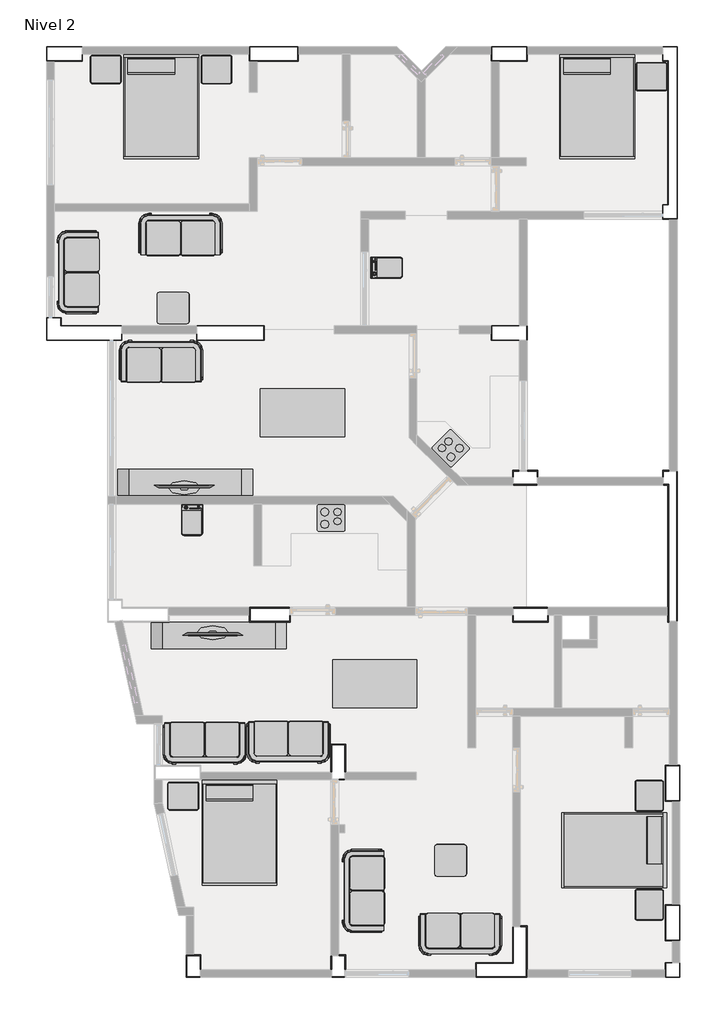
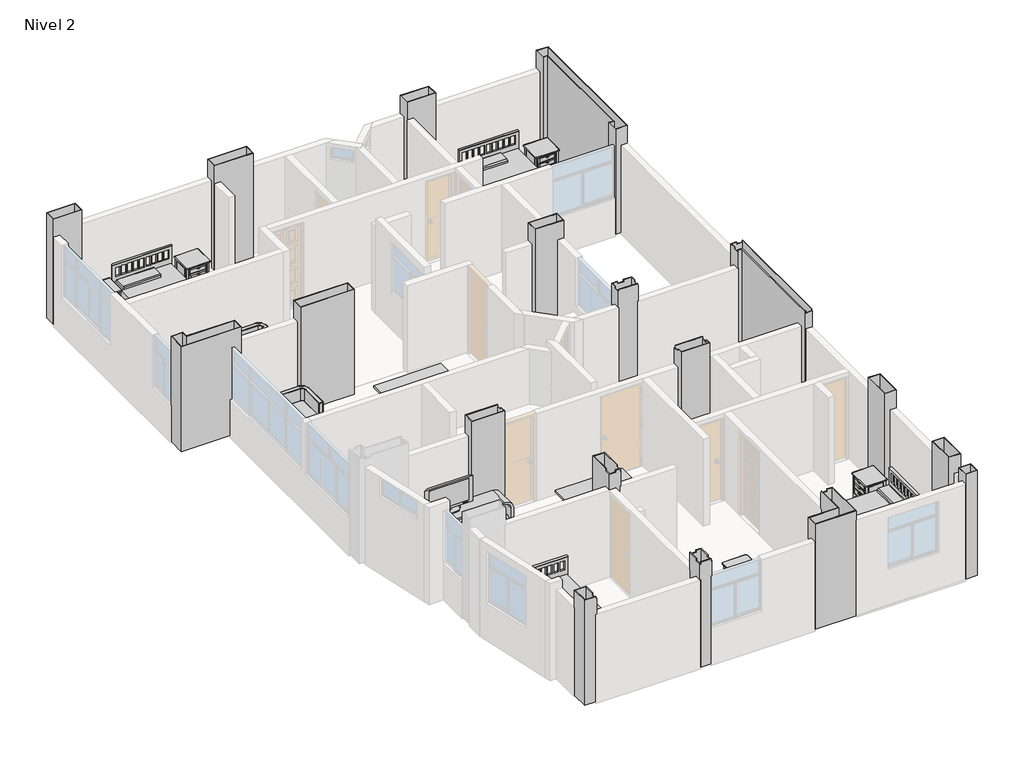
# One storey, part 3 of 3: 23 furniture elements, 18 columns, 6 proxies.
"""IFC4 building model written with IfcOpenShell, lengths in millimetres."""

from ifc_helpers import new_model, si_unit, origin, place, context, project, spatial, faceted_brep, transform, mapped, element, save
from components import specialty_equipment_2e13d9fc, proxy_400mm_x_600mm_x_850mm_a42225af, proxy_42_inch_plasma_tv_11107_42_inch_plasma_tv_11107_394337c5, furniture_18450899, furniture_bfac4297, furniture_1422_x_1981_mm_doble_c85bece8, furniture_160_x_80_cm_madera_claro_7cd3064c, furniture_600mm_x_600mm_a769e95e, bed_side_table_9129_bed_side_table_9129_b31ec6e2, bed_side_table_9129_bed_side_table_9129_c77a05bd, tv_room_furn_4056_tv_room_furn_4056_870fe8c4

model = new_model("IFC4")

# Units and contexts
model_context = context("Model", 3, world=origin())
ifc_project = project(units=[si_unit("LENGTHUNIT", "METRE", prefix="MILLI")], contexts=[model_context])

# Site, building, storey
site = spatial("IfcSite", under=ifc_project)
building = spatial("IfcBuilding", under=site)
storey = spatial("IfcBuildingStorey", under=building, Name="Nivel 2", Elevation=2800.0)

# Proxies
placement = place(None, origin())
specialty_equipment_shape = specialty_equipment_2e13d9fc(model_context)
element("IfcBuildingElementProxy", 1, Name="Electric Hob : Electric Hob", ObjectType="Electric Hob : Electric Hob", at=placement, inside=storey, context=model_context, shape_type="MappedRepresentation", body=[
    mapped(specialty_equipment_shape, transform((5026.7577455, 10021.1807466, 3600.0), x_axis=(-0.7121213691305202, 0.7020563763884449, 0.0), y_axis=(-0.7020563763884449, -0.7121213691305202, 0.0), z_axis=(0.0, 0.0, 1.0))),
])
element("IfcBuildingElementProxy", 2, Name="Electric Hob : Electric Hob", ObjectType="Electric Hob : Electric Hob", at=placement, inside=storey, context=model_context, shape_type="MappedRepresentation", body=[
    mapped(specialty_equipment_shape, transform((2719.0, 8710.0, 3600.0), x_axis=(1.0, 0.0, 0.0), y_axis=(0.0, 1.0, 0.0), z_axis=(0.0, 0.0, 1.0))),
])
proxy_400mm_x_600mm_x_850mm_shape = proxy_400mm_x_600mm_x_850mm_a42225af(model_context)
element("IfcBuildingElementProxy", 3, Name="Lave linge - Chargement par le dessus : 400mm x 600mm x 850mm", ObjectType="Lave linge - Chargement par le dessus : 400mm x 600mm x 850mm", at=placement, inside=storey, context=model_context, shape_type="MappedRepresentation", body=[
    mapped(proxy_400mm_x_600mm_x_850mm_shape, transform((3933.8207986, 13503.4949484, 2800.0), x_axis=(0.0, 1.0, 0.0), y_axis=(-1.0, 0.0, 0.0), z_axis=(0.0, 0.0, 1.0))),
])
element("IfcBuildingElementProxy", 4, Name="Lave linge - Chargement par le dessus : 400mm x 600mm x 850mm", ObjectType="Lave linge - Chargement par le dessus : 400mm x 600mm x 850mm", at=placement, inside=storey, context=model_context, shape_type="MappedRepresentation", body=[
    mapped(proxy_400mm_x_600mm_x_850mm_shape, transform((138.4955292, 8536.1797822, 2800.0), x_axis=(1.0, 0.0, 0.0), y_axis=(0.0, 1.0, 0.0), z_axis=(0.0, 0.0, 1.0))),
])
proxy_42_inch_plasma_tv_11107_42_inch_plasma_tv_11107_shape = proxy_42_inch_plasma_tv_11107_42_inch_plasma_tv_11107_394337c5(model_context)
element("IfcBuildingElementProxy", 5, Name="42_inch_plasma_tv_11107 : 42_inch_plasma_tv_11107", ObjectType="42_inch_plasma_tv_11107 : 42_inch_plasma_tv_11107", at=placement, inside=storey, context=model_context, shape_type="MappedRepresentation", body=[
    mapped(proxy_42_inch_plasma_tv_11107_42_inch_plasma_tv_11107_shape, transform((-49.9994192, 9335.0, 3650.0), x_axis=(-1.0, 0.0, 0.0), y_axis=(0.0, -1.0, 0.0), z_axis=(0.0, 0.0, 1.0))),
])
element("IfcBuildingElementProxy", 6, Name="42_inch_plasma_tv_11107 : 42_inch_plasma_tv_11107", ObjectType="42_inch_plasma_tv_11107 : 42_inch_plasma_tv_11107", at=placement, inside=storey, context=model_context, shape_type="MappedRepresentation", body=[
    mapped(proxy_42_inch_plasma_tv_11107_42_inch_plasma_tv_11107_shape, transform((490.0005808, 6480.0, 3650.0), x_axis=(1.0, 0.0, 0.0), y_axis=(0.0, 1.0, 0.0), z_axis=(0.0, 0.0, 1.0))),
])

# Columns
element("IfcColumn", 7, ObjectType="Columna U Arquitectonica : Columna U Arquitectonica", at=placement, inside=storey, context=model_context, shape_type="Brep", body=[
    faceted_brep([(9035.0, 14665.0, 2800.0), (9135.0, 14665.0, 2800.0), (9135.0, 17385.0, 2800.0), (9035.0, 17385.0, 2800.0), (9035.0, 17665.0, 2800.0), (9315.0, 17665.0, 2800.0), (9315.0, 14385.0, 2800.0), (9035.0, 14385.0, 2800.0), (9050.0, 14650.0, 2800.0), (9050.0, 14400.0, 2800.0), (9300.0, 14400.0, 2800.0), (9300.0, 17650.0, 2800.0), (9050.0, 17650.0, 2800.0), (9050.0, 17400.0, 2800.0), (9150.0, 17400.0, 2800.0), (9150.0, 14650.0, 2800.0), (9150.0, 14650.0, 5450.0), (9050.0, 14650.0, 5450.0), (9150.0, 17400.0, 5450.0), (9050.0, 17400.0, 5450.0), (9050.0, 17650.0, 5450.0), (9300.0, 17650.0, 5450.0), (9300.0, 14400.0, 5450.0), (9050.0, 14400.0, 5450.0), (9035.0, 14665.0, 5450.0), (9035.0, 14385.0, 5450.0), (9315.0, 14385.0, 5450.0), (9315.0, 17665.0, 5450.0), (9035.0, 17665.0, 5450.0), (9035.0, 17385.0, 5450.0), (9135.0, 17385.0, 5450.0), (9135.0, 14665.0, 5450.0), (9035.0, 17665.0, 5400.0), (9035.0, 17665.0, 5000.0), (9315.0, 14385.0, 5400.0), (9315.0, 14385.0, 5000.0), (9035.0, 14385.0, 5400.0), (9035.0, 14385.0, 3700.0)], [[[0, 1, 2, 3, 4, 5, 6, 7], [8, 9, 10, 11, 12, 13, 14, 15]], [[16, 17, 8, 15]], [[18, 16, 15, 14]], [[19, 18, 14, 13]], [[20, 19, 13, 12]], [[21, 20, 12, 11]], [[22, 21, 11, 10]], [[23, 22, 10, 9]], [[17, 23, 9, 8]], [[24, 25, 26, 27, 28, 29, 30, 31], [17, 16, 18, 19, 20, 21, 22, 23]], [[24, 31, 1, 0]], [[31, 30, 2, 1]], [[30, 29, 3, 2]], [[29, 28, 32, 33, 4, 3]], [[28, 27, 5, 4, 33, 32]], [[27, 26, 34, 35, 6, 5]], [[26, 25, 36, 37, 7, 6, 35, 34]], [[25, 24, 0, 7, 37, 36]]]),
])
element("IfcColumn", 8, ObjectType="Columna L Arquitectonica : ACO_L 25x285x25x15 cm", at=placement, inside=storey, context=model_context, shape_type="Brep", body=[
    faceted_brep([(9165.0, 9600.0, 2800.0), (9050.0, 9600.0, 2800.0), (9050.0, 9485.0, 2800.0), (9035.0, 9485.0, 2800.0), (9035.0, 9615.0, 2800.0), (9165.0, 9615.0, 2800.0), (9150.0, 6750.0, 2800.0), (9150.0, 6750.0, 5450.0), (9165.0, 6750.0, 5450.0), (9165.0, 6750.0, 5400.0), (9300.0, 6750.0, 5400.0), (9300.0, 6750.0, 5000.0), (9165.0, 6750.0, 5000.0), (9165.0, 6750.0, 2800.0), (9300.0, 9600.0, 2800.0), (9300.0, 6750.0, 2800.0), (9300.0, 6750.0, 5450.0), (9300.0, 9600.0, 5450.0), (9300.0, 9600.0, 5400.0), (9300.0, 9600.0, 5000.0), (9050.0, 9600.0, 5450.0), (9165.0, 9600.0, 5000.0), (9165.0, 9600.0, 5400.0), (9165.0, 9600.0, 5450.0), (9050.0, 9485.0, 5450.0), (9050.0, 9485.0, 5400.0), (9050.0, 9350.0, 5400.0), (9050.0, 9350.0, 5000.0), (9050.0, 9485.0, 5000.0), (9150.0, 9350.0, 2800.0), (9050.0, 9350.0, 2800.0), (9050.0, 9350.0, 5450.0), (9150.0, 9350.0, 5450.0), (9135.0, 9335.0, 5450.0), (9135.0, 9335.0, 2800.0), (9135.0, 7015.0, 2800.0), (9135.0, 6865.0, 2800.0), (9135.0, 6735.0, 2800.0), (9135.0, 6735.0, 5450.0), (9135.0, 6865.0, 5450.0), (9135.0, 7015.0, 5450.0), (9050.0, 9335.0, 5450.0), (9050.0, 9335.0, 5400.0), (9035.0, 9335.0, 5400.0), (9035.0, 9335.0, 5000.0), (9050.0, 9335.0, 5000.0), (9050.0, 9335.0, 2800.0), (9035.0, 9615.0, 5450.0), (9035.0, 9485.0, 5000.0), (9035.0, 9485.0, 5400.0), (9035.0, 9485.0, 5450.0), (9165.0, 9615.0, 5450.0), (9165.0, 9615.0, 5400.0), (9315.0, 9615.0, 5400.0), (9315.0, 9615.0, 5000.0), (9165.0, 9615.0, 5000.0), (9315.0, 9600.0, 2800.0), (9315.0, 9600.0, 5000.0), (9315.0, 9600.0, 5400.0), (9315.0, 9600.0, 5450.0), (9315.0, 6750.0, 5450.0), (9315.0, 6750.0, 5400.0), (9315.0, 6735.0, 5400.0), (9315.0, 6735.0, 5000.0), (9315.0, 6750.0, 5000.0), (9315.0, 6750.0, 2800.0), (9165.0, 6735.0, 2800.0), (9165.0, 6735.0, 5000.0), (9165.0, 6735.0, 5400.0), (9165.0, 6735.0, 5450.0)], [[[0, 1, 2, 3, 4, 5]], [[6, 7, 8, 9, 10, 11, 12, 13]], [[14, 15, 11, 10, 16, 17, 18, 19]], [[20, 1, 0, 21, 19, 18, 22, 23]], [[1, 20, 24, 25, 26, 27, 28, 2]], [[29, 30, 27, 26, 31, 32]], [[6, 29, 32, 7]], [[33, 34, 35, 36, 37, 38, 39, 40]], [[34, 33, 41, 42, 43, 44, 45, 46]], [[47, 4, 3, 48, 44, 43, 49, 50]], [[4, 47, 51, 52, 53, 54, 55, 5]], [[56, 57, 54, 53, 58, 59, 60, 61, 62, 63, 64, 65]], [[38, 37, 66, 67, 63, 62, 68, 69]], [[17, 16, 60, 59]], [[12, 67, 66, 13]], [[11, 64, 63, 67, 12]], [[64, 11, 15, 65]], [[55, 21, 0, 5]], [[19, 57, 56, 14]], [[57, 19, 21, 55, 54]], [[15, 14, 56, 65]], [[28, 48, 3, 2]], [[45, 27, 30, 46]], [[27, 45, 44, 48, 28]], [[30, 29, 6, 13, 66, 37, 36, 35, 34, 46]], [[22, 52, 51, 23]], [[18, 58, 53, 52, 22]], [[58, 18, 17, 59]], [[68, 9, 8, 69]], [[61, 10, 9, 68, 62]], [[10, 61, 60, 16]], [[32, 31, 41, 33, 40, 39, 38, 69, 8, 7]], [[49, 25, 24, 50]], [[42, 26, 25, 49, 43]], [[26, 42, 41, 31]], [[20, 23, 51, 47, 50, 24]]]),
])
element("IfcColumn", 9, ObjectType="Columna L Arquitectonica : ACO_L 40x140x25 cm", at=placement, inside=storey, context=model_context, shape_type="Brep", body=[
    faceted_brep([(-2385.0, 12515.0, 2800.0), (-2385.0, 12365.0, 2800.0), (-1235.0, 12365.0, 2800.0), (-1235.0, 12085.0, 2800.0), (-2665.0, 12085.0, 2800.0), (-2665.0, 12515.0, 2800.0), (-2400.0, 12500.0, 2800.0), (-2650.0, 12500.0, 2800.0), (-2650.0, 12100.0, 2800.0), (-1250.0, 12100.0, 2800.0), (-1250.0, 12350.0, 2800.0), (-2400.0, 12350.0, 2800.0), (-2400.0, 12500.0, 5450.0), (-2650.0, 12500.0, 5450.0), (-2650.0, 12100.0, 5450.0), (-1250.0, 12100.0, 5450.0), (-1250.0, 12350.0, 5450.0), (-2400.0, 12350.0, 5450.0), (-2385.0, 12515.0, 5450.0), (-2385.0, 12365.0, 5450.0), (-1235.0, 12365.0, 5450.0), (-1235.0, 12365.0, 5400.0), (-1235.0, 12365.0, 5000.0), (-1235.0, 12085.0, 5450.0), (-2665.0, 12085.0, 5450.0), (-2665.0, 12515.0, 5450.0), (-2665.0, 12515.0, 5400.0), (-2665.0, 12515.0, 3700.0)], [[[0, 1, 2, 3, 4, 5], [6, 7, 8, 9, 10, 11]], [[12, 13, 7, 6]], [[13, 14, 8, 7]], [[14, 15, 9, 8]], [[15, 16, 10, 9]], [[16, 17, 11, 10]], [[17, 12, 6, 11]], [[18, 19, 1, 0]], [[19, 20, 21, 22, 2, 1]], [[20, 23, 3, 2, 22, 21]], [[23, 24, 4, 3]], [[24, 25, 26, 27, 5, 4]], [[25, 18, 0, 5, 27, 26]], [[18, 25, 24, 23, 20, 19], [12, 17, 16, 15, 14, 13]]]),
])
element("IfcColumn", 10, ObjectType="Columna L Arquitectonica : ACO_L 95x95x25 cm", at=placement, inside=storey, context=model_context, shape_type="Brep", body=[
    faceted_brep([(5500.0, 250.0, 2800.0), (5500.0, 0.0, 2800.0), (6450.0, 0.0, 2800.0), (6450.0, 950.0, 2800.0), (6335.0, 950.0, 2800.0), (6335.0, 965.0, 2800.0), (6465.0, 965.0, 2800.0), (6465.0, -15.0, 2800.0), (5485.0, -15.0, 2800.0), (5485.0, 265.0, 2800.0), (6185.0, 265.0, 2800.0), (6185.0, 950.0, 2800.0), (6200.0, 950.0, 2800.0), (6200.0, 250.0, 2800.0), (5500.0, 250.0, 5450.0), (5500.0, 0.0, 5450.0), (6450.0, 0.0, 5450.0), (6450.0, 950.0, 5450.0), (6335.0, 950.0, 5450.0), (6335.0, 950.0, 5400.0), (6200.0, 950.0, 5400.0), (6200.0, 950.0, 5000.0), (6335.0, 950.0, 5000.0), (6200.0, 950.0, 5450.0), (6200.0, 250.0, 5450.0), (5485.0, 265.0, 5450.0), (6185.0, 265.0, 5450.0), (6185.0, 950.0, 5450.0), (6185.0, 950.0, 5400.0), (6185.0, 965.0, 5400.0), (6185.0, 965.0, 5000.0), (6185.0, 950.0, 5000.0), (6465.0, 965.0, 5450.0), (6335.0, 965.0, 5000.0), (6335.0, 965.0, 5400.0), (6335.0, 965.0, 5450.0), (6465.0, -15.0, 5450.0), (6465.0, -15.0, 5400.0), (6465.0, -15.0, 5200.0), (5485.0, -15.0, 5450.0), (5485.0, -15.0, 5400.0), (5485.0, -15.0, 5000.0)], [[[0, 1, 2, 3, 4, 5, 6, 7, 8, 9, 10, 11, 12, 13]], [[1, 0, 14, 15]], [[2, 1, 15, 16]], [[3, 2, 16, 17]], [[3, 17, 18, 19, 20, 21, 22, 4]], [[13, 12, 21, 20, 23, 24]], [[0, 13, 24, 14]], [[10, 9, 25, 26]], [[10, 26, 27, 28, 29, 30, 31, 11]], [[32, 6, 5, 33, 30, 29, 34, 35]], [[7, 6, 32, 36, 37, 38]], [[8, 7, 38, 37, 36, 39, 40, 41]], [[9, 8, 41, 40, 39, 25]], [[15, 14, 24, 23, 27, 26, 25, 39, 36, 32, 35, 18, 17, 16]], [[22, 33, 5, 4]], [[21, 31, 30, 33, 22]], [[31, 21, 12, 11]], [[34, 19, 18, 35]], [[28, 20, 19, 34, 29]], [[20, 28, 27, 23]]]),
])
element("IfcColumn", 11, ObjectType="Columna Rectangular Arquitectonica : ACO_Rectangular 25x125 cm", at=placement, inside=storey, context=model_context, shape_type="Brep", body=[
    faceted_brep([(185.0, 12365.0, 2800.0), (1465.0, 12365.0, 2800.0), (1465.0, 12085.0, 2800.0), (185.0, 12085.0, 2800.0), (200.0, 12350.0, 2800.0), (200.0, 12100.0, 2800.0), (1450.0, 12100.0, 2800.0), (1450.0, 12350.0, 2800.0), (200.0, 12350.0, 5450.0), (200.0, 12100.0, 5450.0), (1450.0, 12100.0, 5450.0), (1450.0, 12350.0, 5450.0), (185.0, 12365.0, 5450.0), (1465.0, 12365.0, 5450.0), (185.0, 12365.0, 5000.0), (185.0, 12365.0, 5400.0), (1465.0, 12085.0, 5450.0), (185.0, 12085.0, 5450.0)], [[[0, 1, 2, 3], [4, 5, 6, 7]], [[8, 9, 5, 4]], [[9, 10, 6, 5]], [[10, 11, 7, 6]], [[11, 8, 4, 7]], [[12, 13, 1, 0, 14, 15]], [[13, 16, 2, 1]], [[16, 17, 3, 2]], [[17, 12, 15, 14, 0, 3]], [[12, 17, 16, 13], [8, 11, 10, 9]]]),
])
element("IfcColumn", 12, ObjectType="Columna Rectangular Arquitectonica : ACO_Rectangular 25x25 cm", at=placement, inside=storey, context=model_context, shape_type="Brep", body=[
    faceted_brep([(9085.0, -15.0, 2800.0), (9085.0, 265.0, 2800.0), (9365.0, 265.0, 2800.0), (9365.0, -15.0, 2800.0), (9100.0, 0.0, 2800.0), (9350.0, 0.0, 2800.0), (9350.0, 250.0, 2800.0), (9100.0, 250.0, 2800.0), (9100.0, 0.0, 5450.0), (9350.0, 0.0, 5450.0), (9350.0, 250.0, 5450.0), (9100.0, 250.0, 5450.0), (9085.0, -15.0, 5450.0), (9085.0, 265.0, 5450.0), (9085.0, -15.0, 5200.0), (9085.0, -15.0, 5400.0), (9365.0, 265.0, 5450.0), (9365.0, 265.0, 5400.0), (9365.0, 265.0, 5000.0), (9365.0, -15.0, 5450.0)], [[[0, 1, 2, 3], [4, 5, 6, 7]], [[8, 9, 5, 4]], [[9, 10, 6, 5]], [[10, 11, 7, 6]], [[11, 8, 4, 7]], [[12, 13, 1, 0, 14, 15]], [[13, 16, 17, 18, 2, 1]], [[16, 19, 3, 2, 18, 17]], [[19, 12, 15, 14, 0, 3]], [[12, 19, 16, 13], [8, 11, 10, 9]]]),
])
element("IfcColumn", 13, ObjectType="Columna Rectangular Arquitectonica : ACO_Rectangular 25x40 cm", at=placement, inside=storey, context=model_context, shape_type="Brep", body=[
    faceted_brep([(2735.0, 400.0, 2800.0), (2750.0, 400.0, 2800.0), (2750.0, 135.0, 2800.0), (2735.0, 135.0, 2800.0), (3000.0, 0.0, 2800.0), (2750.0, 0.0, 2800.0), (2750.0, 0.0, 5000.0), (2750.0, 0.0, 5400.0), (2750.0, 0.0, 5450.0), (3000.0, 0.0, 5450.0), (3000.0, 0.0, 5400.0), (3000.0, 0.0, 5000.0), (3000.0, 400.0, 5450.0), (3000.0, 400.0, 2800.0), (3000.0, 135.0, 2800.0), (3000.0, 135.0, 5000.0), (3000.0, 135.0, 5400.0), (3000.0, 135.0, 5450.0), (2885.0, 400.0, 5450.0), (2885.0, 400.0, 5400.0), (2750.0, 400.0, 5400.0), (2750.0, 400.0, 5000.0), (2885.0, 400.0, 5000.0), (2885.0, 400.0, 2800.0), (2750.0, 400.0, 5450.0), (2750.0, 135.0, 5450.0), (2750.0, 135.0, 5400.0), (2750.0, 135.0, 5000.0), (2735.0, 415.0, 5000.0), (2735.0, 400.0, 5000.0), (2735.0, 135.0, 5000.0), (2735.0, -15.0, 5000.0), (2735.0, -15.0, 5400.0), (2735.0, 135.0, 5400.0), (2735.0, 135.0, 5450.0), (2735.0, 400.0, 5450.0), (2735.0, 400.0, 5400.0), (2735.0, 415.0, 5400.0), (3015.0, 415.0, 5450.0), (3015.0, 415.0, 2800.0), (2885.0, 415.0, 2800.0), (2885.0, 415.0, 5000.0), (2885.0, 415.0, 5400.0), (2885.0, 415.0, 5450.0), (3015.0, 135.0, 5450.0), (3015.0, 135.0, 5400.0), (3015.0, -15.0, 5400.0), (3015.0, -15.0, 5000.0), (3015.0, 135.0, 5000.0), (3015.0, 135.0, 3700.0), (3015.0, 135.0, 2800.0), (3000.0, -15.0, 2800.0), (3000.0, -15.0, 5000.0), (3000.0, -15.0, 5400.0), (3000.0, -15.0, 5450.0), (2750.0, -15.0, 5450.0), (2750.0, -15.0, 5400.0), (2750.0, -15.0, 5000.0), (2750.0, -15.0, 2800.0)], [[[0, 1, 2, 3]], [[4, 5, 6, 7, 8, 9, 10, 11]], [[12, 13, 14, 15, 11, 10, 16, 17]], [[13, 12, 18, 19, 20, 21, 22, 23]], [[1, 21, 20, 24, 25, 26, 7, 6, 27, 2]], [[28, 29, 0, 3, 30, 31, 32, 33, 34, 35, 36, 37]], [[38, 39, 40, 41, 28, 37, 42, 43]], [[39, 38, 44, 45, 46, 47, 48, 49, 50]], [[51, 52, 47, 46, 53, 54, 55, 56, 32, 31, 57, 58]], [[9, 8, 55, 54]], [[22, 41, 40, 23]], [[21, 29, 28, 41, 22]], [[29, 21, 1, 0]], [[27, 30, 3, 2]], [[6, 57, 31, 30, 27]], [[57, 6, 5, 58]], [[15, 14, 50, 49, 48]], [[11, 52, 51, 4]], [[11, 15, 48, 47, 52]], [[13, 23, 40, 39, 50, 14]], [[5, 4, 51, 58]], [[42, 19, 18, 43]], [[36, 20, 19, 42, 37]], [[20, 36, 35, 24]], [[33, 26, 25, 34]], [[56, 7, 26, 33, 32]], [[7, 56, 55, 8]], [[24, 35, 34, 25]], [[16, 45, 44, 17]], [[10, 53, 46, 45, 16]], [[53, 10, 9, 54]], [[18, 12, 17, 44, 38, 43]]]),
])
element("IfcColumn", 14, ObjectType="Columna Rectangular Arquitectonica : ACO_Rectangular 25x40 cm", at=placement, inside=storey, context=model_context, shape_type="Brep", body=[
    faceted_brep([(0.0, 0.0, 2800.0), (250.0, 0.0, 2800.0), (250.0, -15.0, 2800.0), (-15.0, -15.0, 2800.0), (-15.0, 415.0, 2800.0), (265.0, 415.0, 2800.0), (265.0, 135.0, 2800.0), (250.0, 135.0, 2800.0), (250.0, 400.0, 2800.0), (0.0, 400.0, 2800.0), (0.0, 0.0, 5450.0), (250.0, 0.0, 5450.0), (250.0, 0.0, 5400.0), (250.0, 0.0, 5000.0), (250.0, 400.0, 5450.0), (250.0, 135.0, 5000.0), (250.0, 135.0, 5400.0), (250.0, 135.0, 5450.0), (0.0, 400.0, 5450.0), (-15.0, -15.0, 5450.0), (-15.0, 415.0, 5450.0), (-15.0, 415.0, 5400.0), (-15.0, 415.0, 5000.0), (265.0, 415.0, 5450.0), (265.0, 135.0, 5450.0), (265.0, 135.0, 5400.0), (265.0, -15.0, 5400.0), (265.0, -15.0, 5000.0), (265.0, 135.0, 5000.0), (250.0, -15.0, 5000.0), (250.0, -15.0, 5400.0), (250.0, -15.0, 5450.0)], [[[0, 1, 2, 3, 4, 5, 6, 7, 8, 9]], [[1, 0, 10, 11, 12, 13]], [[14, 8, 7, 15, 13, 12, 16, 17]], [[9, 8, 14, 18]], [[0, 9, 18, 10]], [[4, 3, 19, 20, 21, 22]], [[5, 4, 22, 21, 20, 23]], [[5, 23, 24, 25, 26, 27, 28, 6]], [[19, 3, 2, 29, 27, 26, 30, 31]], [[11, 10, 18, 14, 17, 24, 23, 20, 19, 31]], [[28, 15, 7, 6]], [[13, 29, 2, 1]], [[29, 13, 15, 28, 27]], [[16, 25, 24, 17]], [[12, 30, 26, 25, 16]], [[30, 12, 11, 31]]]),
])
element("IfcColumn", 15, ObjectType="Columna Rectangular Arquitectonica : ACO_Rectangular 25x45 cm", at=placement, inside=storey, context=model_context, shape_type="Brep", body=[
    faceted_brep([(6200.0, 9600.0, 2800.0), (6200.0, 9485.0, 2800.0), (6185.0, 9485.0, 2800.0), (6185.0, 9615.0, 2800.0), (6315.0, 9615.0, 2800.0), (6315.0, 9600.0, 2800.0), (6200.0, 9600.0, 5450.0), (6200.0, 9485.0, 5450.0), (6200.0, 9485.0, 5400.0), (6200.0, 9350.0, 5400.0), (6200.0, 9350.0, 5000.0), (6200.0, 9485.0, 5000.0), (6650.0, 9350.0, 2800.0), (6200.0, 9350.0, 2800.0), (6200.0, 9350.0, 5450.0), (6650.0, 9350.0, 5450.0), (6650.0, 9350.0, 5400.0), (6650.0, 9350.0, 5000.0), (6650.0, 9600.0, 5450.0), (6650.0, 9600.0, 2800.0), (6650.0, 9485.0, 2800.0), (6650.0, 9485.0, 5000.0), (6650.0, 9485.0, 5400.0), (6650.0, 9485.0, 5450.0), (6315.0, 9600.0, 5000.0), (6465.0, 9600.0, 5000.0), (6465.0, 9600.0, 2800.0), (6465.0, 9600.0, 5450.0), (6465.0, 9600.0, 5400.0), (6315.0, 9600.0, 5400.0), (6315.0, 9600.0, 5450.0), (6665.0, 9615.0, 5450.0), (6665.0, 9615.0, 2800.0), (6465.0, 9615.0, 2800.0), (6465.0, 9615.0, 3800.0), (6465.0, 9615.0, 5000.0), (6315.0, 9615.0, 5000.0), (6315.0, 9615.0, 3800.0), (6185.0, 9615.0, 5450.0), (6315.0, 9615.0, 5450.0), (6315.0, 9615.0, 5400.0), (6465.0, 9615.0, 5400.0), (6465.0, 9615.0, 5450.0), (6665.0, 9485.0, 5450.0), (6665.0, 9485.0, 5400.0), (6665.0, 9335.0, 5400.0), (6665.0, 9335.0, 5000.0), (6665.0, 9485.0, 5000.0), (6665.0, 9485.0, 2800.0), (6650.0, 9335.0, 5000.0), (6650.0, 9335.0, 5400.0), (6650.0, 9335.0, 5450.0), (6200.0, 9335.0, 5450.0), (6200.0, 9335.0, 5400.0), (6185.0, 9335.0, 5400.0), (6185.0, 9335.0, 5000.0), (6200.0, 9335.0, 5000.0), (6200.0, 9335.0, 2800.0), (6650.0, 9335.0, 2800.0), (6185.0, 9485.0, 5000.0), (6185.0, 9485.0, 5400.0), (6185.0, 9485.0, 5450.0)], [[[0, 1, 2, 3, 4, 5]], [[0, 6, 7, 8, 9, 10, 11, 1]], [[12, 13, 10, 9, 14, 15, 16, 17]], [[18, 19, 20, 21, 17, 16, 22, 23]], [[6, 0, 5, 24, 25, 26, 19, 18, 27, 28, 29, 30]], [[31, 32, 33, 34, 35, 36, 37, 4, 3, 38, 39, 40, 41, 42]], [[32, 31, 43, 44, 45, 46, 47, 48]], [[49, 46, 45, 50, 51, 52, 53, 54, 55, 56, 57, 58]], [[38, 3, 2, 59, 55, 54, 60, 61]], [[15, 14, 52, 51]], [[33, 26, 25, 35, 34]], [[5, 4, 37, 36, 24]], [[25, 24, 36, 35]], [[11, 59, 2, 1]], [[10, 56, 55, 59, 11]], [[56, 10, 13, 57]], [[47, 21, 20, 48]], [[49, 17, 21, 47, 46]], [[17, 49, 58, 12]], [[20, 19, 26, 33, 32, 48]], [[13, 12, 58, 57]], [[41, 28, 27, 42]], [[29, 40, 39, 30]], [[28, 41, 40, 29]], [[60, 8, 7, 61]], [[53, 9, 8, 60, 54]], [[9, 53, 52, 14]], [[6, 30, 39, 38, 61, 7]], [[22, 44, 43, 23]], [[16, 50, 45, 44, 22]], [[50, 16, 15, 51]], [[27, 18, 23, 43, 31, 42]]]),
])
element("IfcColumn", 16, ObjectType="Columna Rectangular Arquitectonica : ACO_Rectangular 25x65 cm", at=placement, inside=storey, context=model_context, shape_type="Brep", body=[
    faceted_brep([(-2665.0, 17665.0, 2800.0), (-1985.0, 17665.0, 2800.0), (-1985.0, 17385.0, 2800.0), (-2665.0, 17385.0, 2800.0), (-2650.0, 17650.0, 2800.0), (-2650.0, 17400.0, 2800.0), (-2000.0, 17400.0, 2800.0), (-2000.0, 17650.0, 2800.0), (-2650.0, 17650.0, 5450.0), (-2650.0, 17400.0, 5450.0), (-2000.0, 17400.0, 5450.0), (-2000.0, 17650.0, 5450.0), (-2665.0, 17665.0, 5450.0), (-1985.0, 17665.0, 5450.0), (-1985.0, 17665.0, 5400.0), (-1985.0, 17665.0, 5000.0), (-1985.0, 17385.0, 5450.0), (-2665.0, 17385.0, 5450.0), (-2665.0, 17385.0, 5400.0), (-2665.0, 17385.0, 5000.0)], [[[0, 1, 2, 3], [4, 5, 6, 7]], [[8, 9, 5, 4]], [[9, 10, 6, 5]], [[10, 11, 7, 6]], [[11, 8, 4, 7]], [[12, 13, 14, 15, 1, 0]], [[13, 16, 2, 1, 15, 14]], [[16, 17, 18, 19, 3, 2]], [[17, 12, 0, 3, 19, 18]], [[12, 17, 16, 13], [8, 11, 10, 9]]]),
])
element("IfcColumn", 17, ObjectType="Columna Rectangular Arquitectonica : ACO_Rectangular 25x65 cm", at=placement, inside=storey, context=model_context, shape_type="Brep", body=[
    faceted_brep([(5785.0, 17665.0, 2800.0), (6465.0, 17665.0, 2800.0), (6465.0, 17385.0, 2800.0), (5785.0, 17385.0, 2800.0), (5800.0, 17650.0, 2800.0), (5800.0, 17400.0, 2800.0), (6450.0, 17400.0, 2800.0), (6450.0, 17650.0, 2800.0), (5800.0, 17650.0, 5450.0), (5800.0, 17400.0, 5450.0), (6450.0, 17400.0, 5450.0), (6450.0, 17650.0, 5450.0), (5785.0, 17665.0, 5450.0), (6465.0, 17665.0, 5450.0), (6465.0, 17665.0, 5400.0), (6465.0, 17665.0, 5000.0), (5785.0, 17665.0, 5000.0), (5785.0, 17665.0, 5400.0), (6465.0, 17385.0, 5450.0), (5785.0, 17385.0, 5450.0), (5785.0, 17385.0, 5400.0), (5785.0, 17385.0, 5000.0)], [[[0, 1, 2, 3], [4, 5, 6, 7]], [[8, 9, 5, 4]], [[9, 10, 6, 5]], [[10, 11, 7, 6]], [[11, 8, 4, 7]], [[12, 13, 14, 15, 1, 0, 16, 17]], [[13, 18, 2, 1, 15, 14]], [[18, 19, 20, 21, 3, 2]], [[19, 12, 17, 16, 0, 3, 21, 20]], [[12, 19, 18, 13], [8, 11, 10, 9]]]),
])
element("IfcColumn", 18, ObjectType="Columna Rectangular Arquitectonica : ACO_Rectangular 25x65 cm", at=placement, inside=storey, context=model_context, shape_type="Brep", body=[
    faceted_brep([(5785.0, 12365.0, 2800.0), (6465.0, 12365.0, 2800.0), (6465.0, 12085.0, 2800.0), (5785.0, 12085.0, 2800.0), (5800.0, 12350.0, 2800.0), (5800.0, 12100.0, 2800.0), (6450.0, 12100.0, 2800.0), (6450.0, 12350.0, 2800.0), (5800.0, 12350.0, 5450.0), (5800.0, 12100.0, 5450.0), (6450.0, 12100.0, 5450.0), (6450.0, 12350.0, 5450.0), (5785.0, 12365.0, 5450.0), (6465.0, 12365.0, 5450.0), (6465.0, 12365.0, 5400.0), (6465.0, 12365.0, 5000.0), (5785.0, 12365.0, 5000.0), (5785.0, 12365.0, 5400.0), (6465.0, 12085.0, 5450.0), (6465.0, 12085.0, 5400.0), (6465.0, 12085.0, 5000.0), (5785.0, 12085.0, 5450.0)], [[[0, 1, 2, 3], [4, 5, 6, 7]], [[8, 9, 5, 4]], [[9, 10, 6, 5]], [[10, 11, 7, 6]], [[11, 8, 4, 7]], [[12, 13, 14, 15, 1, 0, 16, 17]], [[13, 18, 19, 20, 2, 1, 15, 14]], [[18, 21, 3, 2, 20, 19]], [[21, 12, 17, 16, 0, 3]], [[12, 21, 18, 13], [8, 11, 10, 9]]]),
])
element("IfcColumn", 19, ObjectType="Columna Rectangular Arquitectonica : ACO_Rectangular 25x65 cm", at=placement, inside=storey, context=model_context, shape_type="Brep", body=[
    faceted_brep([(6850.0, 7000.0, 2800.0), (6200.0, 7000.0, 2800.0), (6200.0, 7015.0, 2800.0), (6850.0, 7015.0, 2800.0), (6200.0, 6750.0, 5450.0), (6200.0, 6750.0, 2800.0), (6200.0, 6865.0, 2800.0), (6200.0, 6865.0, 5000.0), (6200.0, 7000.0, 5000.0), (6200.0, 7000.0, 5400.0), (6200.0, 6865.0, 5400.0), (6200.0, 6865.0, 5450.0), (6850.0, 6750.0, 2800.0), (6850.0, 6750.0, 5450.0), (6850.0, 6865.0, 5450.0), (6850.0, 6865.0, 5400.0), (6850.0, 7000.0, 5400.0), (6850.0, 7000.0, 5000.0), (6850.0, 6865.0, 5000.0), (6850.0, 6865.0, 2800.0), (6850.0, 7000.0, 5450.0), (6200.0, 7000.0, 5450.0), (6200.0, 7015.0, 5000.0), (6185.0, 7015.0, 5000.0), (6185.0, 7015.0, 5400.0), (6200.0, 7015.0, 5400.0), (6200.0, 7015.0, 5450.0), (6850.0, 7015.0, 5450.0), (6850.0, 7015.0, 5400.0), (6865.0, 7015.0, 5400.0), (6865.0, 7015.0, 5000.0), (6850.0, 7015.0, 5000.0), (6865.0, 6735.0, 5450.0), (6865.0, 6735.0, 2800.0), (6865.0, 6865.0, 2800.0), (6865.0, 6865.0, 5000.0), (6865.0, 6865.0, 5400.0), (6865.0, 6865.0, 5450.0), (6185.0, 6735.0, 2800.0), (6185.0, 6735.0, 5450.0), (6185.0, 6865.0, 5450.0), (6185.0, 6865.0, 5400.0), (6185.0, 6865.0, 5000.0), (6185.0, 6865.0, 2800.0)], [[[0, 1, 2, 3]], [[4, 5, 6, 7, 8, 9, 10, 11]], [[12, 5, 4, 13]], [[12, 13, 14, 15, 16, 17, 18, 19]], [[1, 0, 17, 16, 20, 21, 9, 8]], [[2, 22, 23, 24, 25, 26, 27, 28, 29, 30, 31, 3]], [[32, 33, 34, 35, 30, 29, 36, 37]], [[38, 33, 32, 39]], [[38, 39, 40, 41, 24, 23, 42, 43]], [[13, 4, 11, 40, 39, 32, 37, 14]], [[18, 35, 34, 19]], [[31, 17, 0, 3]], [[17, 31, 30, 35, 18]], [[6, 43, 42, 7]], [[8, 22, 2, 1]], [[22, 8, 7, 42, 23]], [[5, 12, 19, 34, 33, 38, 43, 6]], [[36, 15, 14, 37]], [[28, 16, 15, 36, 29]], [[16, 28, 27, 20]], [[10, 41, 40, 11]], [[9, 25, 24, 41, 10]], [[25, 9, 21, 26]], [[21, 20, 27, 26]]]),
])
element("IfcColumn", 20, ObjectType="Columna Rectangular Arquitectonica : ACO_Rectangular 25x65 cm", at=placement, inside=storey, context=model_context, shape_type="Brep", body=[
    faceted_brep([(3000.0, 4400.0, 2800.0), (2750.0, 4400.0, 2800.0), (2750.0, 3885.0, 2800.0), (2735.0, 3885.0, 2800.0), (2735.0, 4415.0, 2800.0), (3015.0, 4415.0, 2800.0), (3015.0, 3885.0, 2800.0), (3000.0, 3885.0, 2800.0), (3000.0, 3750.0, 5000.0), (3000.0, 3750.0, 2800.0), (2885.0, 3750.0, 2800.0), (2885.0, 3750.0, 5000.0), (2750.0, 3750.0, 5000.0), (2750.0, 3750.0, 5400.0), (2885.0, 3750.0, 5400.0), (2885.0, 3750.0, 5450.0), (3000.0, 3750.0, 5450.0), (3000.0, 3750.0, 5400.0), (3000.0, 4400.0, 5450.0), (3000.0, 3885.0, 5000.0), (3000.0, 3885.0, 5400.0), (3000.0, 3885.0, 5450.0), (2750.0, 4400.0, 5450.0), (2750.0, 3885.0, 5450.0), (2750.0, 3885.0, 5400.0), (2750.0, 3885.0, 5000.0), (2735.0, 4415.0, 5450.0), (2735.0, 3885.0, 5000.0), (2735.0, 3750.0, 5000.0), (2735.0, 3735.0, 5000.0), (2735.0, 3735.0, 5400.0), (2735.0, 3750.0, 5400.0), (2735.0, 3885.0, 5400.0), (2735.0, 3885.0, 5450.0), (3015.0, 4415.0, 5450.0), (3015.0, 3885.0, 5450.0), (3015.0, 3885.0, 5400.0), (3015.0, 3735.0, 5400.0), (3015.0, 3735.0, 5000.0), (3015.0, 3885.0, 5000.0), (3000.0, 3735.0, 2800.0), (3000.0, 3735.0, 5000.0), (3000.0, 3735.0, 5400.0), (3000.0, 3735.0, 5450.0), (2885.0, 3735.0, 5450.0), (2885.0, 3735.0, 5400.0), (2750.0, 3735.0, 5400.0), (2750.0, 3735.0, 5000.0), (2885.0, 3735.0, 5000.0), (2885.0, 3735.0, 4900.0), (2885.0, 3735.0, 2800.0)], [[[0, 1, 2, 3, 4, 5, 6, 7]], [[8, 9, 10, 11, 12, 13, 14, 15, 16, 17]], [[18, 0, 7, 19, 8, 17, 20, 21]], [[1, 0, 18, 22]], [[1, 22, 23, 24, 13, 12, 25, 2]], [[26, 4, 3, 27, 28, 29, 30, 31, 32, 33]], [[5, 4, 26, 34]], [[5, 34, 35, 36, 37, 38, 39, 6]], [[40, 41, 38, 37, 42, 43, 44, 45, 46, 30, 29, 47, 48, 49, 50]], [[43, 16, 15, 44]], [[39, 19, 7, 6]], [[8, 41, 40, 9]], [[41, 8, 19, 39, 38]], [[25, 27, 3, 2]], [[27, 25, 12, 47, 29, 28]], [[9, 40, 50, 10]], [[48, 11, 10, 50, 49]], [[11, 48, 47, 12]], [[20, 36, 35, 21]], [[17, 42, 37, 36, 20]], [[42, 17, 16, 43]], [[32, 24, 23, 33]], [[24, 32, 31, 30, 46, 13]], [[22, 18, 21, 35, 34, 26, 33, 23]], [[14, 45, 44, 15]], [[45, 14, 13, 46]]]),
])
element("IfcColumn", 21, ObjectType="Columna Rectangular Arquitectonica : ACO_Rectangular 25x65 cm", at=placement, inside=storey, context=model_context, shape_type="Brep", body=[
    faceted_brep([(9085.0, 685.0, 2800.0), (9085.0, 1365.0, 2800.0), (9365.0, 1365.0, 2800.0), (9365.0, 685.0, 2800.0), (9100.0, 700.0, 2800.0), (9350.0, 700.0, 2800.0), (9350.0, 1350.0, 2800.0), (9100.0, 1350.0, 2800.0), (9100.0, 700.0, 5450.0), (9350.0, 700.0, 5450.0), (9350.0, 1350.0, 5450.0), (9100.0, 1350.0, 5450.0), (9085.0, 685.0, 5450.0), (9085.0, 1365.0, 5450.0), (9365.0, 1365.0, 5450.0), (9365.0, 1365.0, 5400.0), (9365.0, 1365.0, 5000.0), (9365.0, 685.0, 5450.0), (9365.0, 685.0, 5400.0), (9365.0, 685.0, 5000.0)], [[[0, 1, 2, 3], [4, 5, 6, 7]], [[8, 9, 5, 4]], [[9, 10, 6, 5]], [[10, 11, 7, 6]], [[11, 8, 4, 7]], [[12, 13, 1, 0]], [[13, 14, 15, 16, 2, 1]], [[14, 17, 18, 19, 3, 2, 16, 15]], [[17, 12, 0, 3, 19, 18]], [[12, 17, 14, 13], [8, 11, 10, 9]]]),
])
element("IfcColumn", 22, ObjectType="Columna Rectangular Arquitectonica : ACO_Rectangular 25x65 cm", at=placement, inside=storey, context=model_context, shape_type="Brep", body=[
    faceted_brep([(9085.0, 3335.0, 2800.0), (9085.0, 4015.0, 2800.0), (9365.0, 4015.0, 2800.0), (9365.0, 3335.0, 2800.0), (9100.0, 3350.0, 2800.0), (9350.0, 3350.0, 2800.0), (9350.0, 4000.0, 2800.0), (9100.0, 4000.0, 2800.0), (9100.0, 3350.0, 5450.0), (9350.0, 3350.0, 5450.0), (9350.0, 4000.0, 5450.0), (9100.0, 4000.0, 5450.0), (9085.0, 3335.0, 5450.0), (9085.0, 4015.0, 5450.0), (9365.0, 4015.0, 5450.0), (9365.0, 3335.0, 5450.0), (9365.0, 3335.0, 5400.0), (9365.0, 3335.0, 5000.0)], [[[0, 1, 2, 3], [4, 5, 6, 7]], [[8, 9, 5, 4]], [[9, 10, 6, 5]], [[10, 11, 7, 6]], [[11, 8, 4, 7]], [[12, 13, 1, 0]], [[13, 14, 2, 1]], [[14, 15, 16, 17, 3, 2]], [[15, 12, 0, 3, 17, 16]], [[12, 15, 14, 13], [8, 11, 10, 9]]]),
])
element("IfcColumn", 23, ObjectType="Columna Rectangular Arquitectonica : ACO_Rectangular 25x75 cm", at=placement, inside=storey, context=model_context, shape_type="Brep", body=[
    faceted_brep([(1200.0, 7000.0, 2800.0), (1200.0, 6750.0, 2800.0), (1950.0, 6750.0, 2800.0), (1950.0, 6865.0, 2800.0), (1965.0, 6865.0, 2800.0), (1965.0, 6735.0, 2800.0), (1185.0, 6735.0, 2800.0), (1185.0, 7015.0, 2800.0), (1950.0, 7015.0, 2800.0), (1950.0, 7000.0, 2800.0), (1200.0, 7000.0, 5450.0), (1200.0, 6750.0, 5450.0), (1950.0, 6750.0, 5450.0), (1950.0, 6865.0, 5450.0), (1950.0, 6865.0, 5400.0), (1950.0, 7000.0, 5400.0), (1950.0, 7000.0, 5000.0), (1950.0, 6865.0, 5000.0), (1950.0, 7000.0, 5450.0), (1185.0, 7015.0, 5000.0), (1185.0, 7015.0, 5400.0), (1185.0, 7015.0, 5450.0), (1950.0, 7015.0, 5450.0), (1950.0, 7015.0, 5400.0), (1965.0, 7015.0, 5400.0), (1965.0, 7015.0, 5000.0), (1950.0, 7015.0, 5000.0), (1965.0, 6735.0, 5450.0), (1965.0, 6865.0, 5000.0), (1965.0, 6865.0, 5400.0), (1965.0, 6865.0, 5450.0), (1185.0, 6735.0, 5450.0)], [[[0, 1, 2, 3, 4, 5, 6, 7, 8, 9]], [[1, 0, 10, 11]], [[2, 1, 11, 12]], [[2, 12, 13, 14, 15, 16, 17, 3]], [[0, 9, 16, 15, 18, 10]], [[7, 19, 20, 21, 22, 23, 24, 25, 26, 8]], [[27, 5, 4, 28, 25, 24, 29, 30]], [[6, 5, 27, 31]], [[7, 6, 31, 21, 20, 19]], [[11, 10, 18, 22, 21, 31, 27, 30, 13, 12]], [[4, 3, 17, 28]], [[9, 8, 26, 16]], [[28, 17, 16, 26, 25]], [[29, 14, 13, 30]], [[23, 15, 14, 29, 24]], [[15, 23, 22, 18]]]),
])
element("IfcColumn", 24, ObjectType="Columna Rectangular Arquitectonica : ACO_Rectangular 25x90 cm", at=placement, inside=storey, context=model_context, shape_type="Brep", body=[
    faceted_brep([(1185.0, 17665.0, 2800.0), (2115.0, 17665.0, 2800.0), (2115.0, 17385.0, 2800.0), (1185.0, 17385.0, 2800.0), (1200.0, 17650.0, 2800.0), (1200.0, 17400.0, 2800.0), (2100.0, 17400.0, 2800.0), (2100.0, 17650.0, 2800.0), (1200.0, 17650.0, 5450.0), (1200.0, 17400.0, 5450.0), (2100.0, 17400.0, 5450.0), (2100.0, 17650.0, 5450.0), (1185.0, 17665.0, 5450.0), (2115.0, 17665.0, 5450.0), (2115.0, 17665.0, 5400.0), (2115.0, 17665.0, 5000.0), (1185.0, 17665.0, 5000.0), (1185.0, 17665.0, 5400.0), (2115.0, 17385.0, 5450.0), (1185.0, 17385.0, 5450.0), (1185.0, 17385.0, 5400.0), (1185.0, 17385.0, 5000.0)], [[[0, 1, 2, 3], [4, 5, 6, 7]], [[8, 9, 5, 4]], [[9, 10, 6, 5]], [[10, 11, 7, 6]], [[11, 8, 4, 7]], [[12, 13, 14, 15, 1, 0, 16, 17]], [[13, 18, 2, 1, 15, 14]], [[18, 19, 20, 21, 3, 2]], [[19, 12, 17, 16, 0, 3, 21, 20]], [[12, 19, 18, 13], [8, 11, 10, 9]]]),
])

# Furniture
furniture_shape = furniture_18450899(model_context)
furniture_2_shape = furniture_bfac4297(model_context)
element("IfcFurniture", 25, ObjectType="00304 - Haworth - Castelli - Jul 13 - Ver - 4 - M_Sit (SLMS-FD02-8P) : Settee_SLMS-FD-02", at=placement, inside=storey, context=model_context, shape_type="MappedRepresentation", body=[
    mapped(furniture_shape, transform((-528.0530561, 11371.2276294, 2800.0), x_axis=(1.0, 0.0, 0.0), y_axis=(0.0, 1.0, 0.0), z_axis=(0.0, 0.0, 1.0))),
    mapped(furniture_2_shape, transform((-528.0530561, 11371.2276294, 2800.0), x_axis=(1.0, 0.0, 0.0), y_axis=(0.0, 1.0, 0.0), z_axis=(0.0, 0.0, 1.0))),
])
element("IfcFurniture", 26, ObjectType="00304 - Haworth - Castelli - Jul 13 - Ver - 4 - M_Sit (SLMS-FD02-8P) : Settee_SLMS-FD-02", at=placement, inside=storey, context=model_context, shape_type="MappedRepresentation", body=[
    mapped(furniture_shape, transform((-1751.2276294, 13341.9463631, 2800.0), x_axis=(0.0, 1.0, 0.0), y_axis=(-1.0, 0.0, 0.0), z_axis=(0.0, 0.0, 1.0))),
    mapped(furniture_2_shape, transform((-1751.2276294, 13341.9463631, 2800.0), x_axis=(0.0, 1.0, 0.0), y_axis=(-1.0, 0.0, 0.0), z_axis=(0.0, 0.0, 1.0))),
])
element("IfcFurniture", 27, ObjectType="00304 - Haworth - Castelli - Jul 13 - Ver - 4 - M_Sit (SLMS-FD02-8P) : Settee_SLMS-FD-02", at=placement, inside=storey, context=model_context, shape_type="MappedRepresentation", body=[
    mapped(furniture_shape, transform((-158.0536369, 13781.2276294, 2800.0), x_axis=(1.0, 0.0, 0.0), y_axis=(0.0, 1.0, 0.0), z_axis=(0.0, 0.0, 1.0))),
    mapped(furniture_2_shape, transform((-158.0536369, 13781.2276294, 2800.0), x_axis=(1.0, 0.0, 0.0), y_axis=(0.0, 1.0, 0.0), z_axis=(0.0, 0.0, 1.0))),
])
element("IfcFurniture", 28, ObjectType="00304 - Haworth - Castelli - Jul 13 - Ver - 4 - M_Sit (SLMS-FD02-8P) : Settee_SLMS-FD-02", at=placement, inside=storey, context=model_context, shape_type="MappedRepresentation", body=[
    mapped(furniture_shape, transform((378.0536369, 4748.7723706, 2800.0), x_axis=(-1.0, 0.0, 0.0), y_axis=(0.0, -1.0, 0.0), z_axis=(0.0, 0.0, 1.0))),
    mapped(furniture_2_shape, transform((378.0536369, 4748.7723706, 2800.0), x_axis=(-1.0, 0.0, 0.0), y_axis=(0.0, -1.0, 0.0), z_axis=(0.0, 0.0, 1.0))),
])
element("IfcFurniture", 29, ObjectType="00304 - Haworth - Castelli - Jul 13 - Ver - 4 - M_Sit (SLMS-FD02-8P) : Settee_SLMS-FD-02", at=placement, inside=storey, context=model_context, shape_type="MappedRepresentation", body=[
    mapped(furniture_shape, transform((1968.0542177, 4768.7723706, 2800.0), x_axis=(-1.0, 0.0, 0.0), y_axis=(0.0, -1.0, 0.0), z_axis=(0.0, 0.0, 1.0))),
    mapped(furniture_2_shape, transform((1968.0542177, 4768.7723706, 2800.0), x_axis=(-1.0, 0.0, 0.0), y_axis=(0.0, -1.0, 0.0), z_axis=(0.0, 0.0, 1.0))),
])
element("IfcFurniture", 30, ObjectType="00304 - Haworth - Castelli - Jul 13 - Ver - 4 - M_Sit (SLMS-FD02-8P) : Settee_SLMS-FD-02", at=placement, inside=storey, context=model_context, shape_type="MappedRepresentation", body=[
    mapped(furniture_shape, transform((3668.7723706, 1591.9463631, 2800.0), x_axis=(0.0, 1.0, 0.0), y_axis=(-1.0, 0.0, 0.0), z_axis=(0.0, 0.0, 1.0))),
    mapped(furniture_2_shape, transform((3668.7723706, 1591.9463631, 2800.0), x_axis=(0.0, 1.0, 0.0), y_axis=(-1.0, 0.0, 0.0), z_axis=(0.0, 0.0, 1.0))),
])
element("IfcFurniture", 31, ObjectType="00304 - Haworth - Castelli - Jul 13 - Ver - 4 - M_Sit (SLMS-FD02-8P) : Settee_SLMS-FD-02", at=placement, inside=storey, context=model_context, shape_type="MappedRepresentation", body=[
    mapped(furniture_shape, transform((5228.0536369, 1118.7723706, 2800.0), x_axis=(-1.0, 0.0, 0.0), y_axis=(0.0, -1.0, 0.0), z_axis=(0.0, 0.0, 1.0))),
    mapped(furniture_2_shape, transform((5228.0536369, 1118.7723706, 2800.0), x_axis=(-1.0, 0.0, 0.0), y_axis=(0.0, -1.0, 0.0), z_axis=(0.0, 0.0, 1.0))),
])
furniture_1422_x_1981_mm_doble_shape = furniture_1422_x_1981_mm_doble_c85bece8(model_context)
element("IfcFurniture", 32, ObjectType="Cama-Agitador : 1422 x 1981 mm - Doble", at=placement, inside=storey, context=model_context, shape_type="MappedRepresentation", body=[
    mapped(furniture_1422_x_1981_mm_doble_shape, transform((-469.75, 17515.0, 2800.0), x_axis=(1.0, 0.0, 0.0), y_axis=(0.0, 1.0, 0.0), z_axis=(0.0, 0.0, 1.0))),
])
element("IfcFurniture", 33, ObjectType="Cama-Agitador : 1422 x 1981 mm - Doble", at=placement, inside=storey, context=model_context, shape_type="MappedRepresentation", body=[
    mapped(furniture_1422_x_1981_mm_doble_shape, transform((7810.25, 17515.0, 2800.0), x_axis=(1.0, 0.0, 0.0), y_axis=(0.0, 1.0, 0.0), z_axis=(0.0, 0.0, 1.0))),
])
element("IfcFurniture", 34, ObjectType="Cama-Agitador : 1422 x 1981 mm - Doble", at=placement, inside=storey, context=model_context, shape_type="MappedRepresentation", body=[
    mapped(furniture_1422_x_1981_mm_doble_shape, transform((1017.85, 3715.0, 2800.0), x_axis=(1.0, 0.0, 0.0), y_axis=(0.0, 1.0, 0.0), z_axis=(0.0, 0.0, 1.0))),
])
element("IfcFurniture", 35, ObjectType="Cama-Agitador : 1422 x 1981 mm - Doble", at=placement, inside=storey, context=model_context, shape_type="MappedRepresentation", body=[
    mapped(furniture_1422_x_1981_mm_doble_shape, transform((9104.2216492, 2380.95, 2800.0), x_axis=(0.0, -1.0, 0.0), y_axis=(1.0, 0.0, 0.0), z_axis=(0.0, 0.0, 1.0))),
])
furniture_160_x_80_cm_madera_claro_shape = furniture_160_x_80_cm_madera_claro_7cd3064c(model_context)
element("IfcFurniture", 36, ObjectType="Mesa Comedor 6 personas : 160 x 80 cm - Madera claro", at=placement, inside=storey, context=model_context, shape_type="MappedRepresentation", body=[
    mapped(furniture_160_x_80_cm_madera_claro_shape, transform((2179.6830368, 10670.8700593, 2800.0), x_axis=(1.0, 0.0, 0.0), y_axis=(0.0, 1.0, 0.0), z_axis=(0.0, 0.0, 1.0))),
])
element("IfcFurniture", 37, ObjectType="Mesa Comedor 6 personas : 160 x 80 cm - Madera claro", at=placement, inside=storey, context=model_context, shape_type="MappedRepresentation", body=[
    mapped(furniture_160_x_80_cm_madera_claro_shape, transform((3551.0325083, 5521.5163413, 2800.0), x_axis=(1.0, 0.0, 0.0), y_axis=(0.0, 1.0, 0.0), z_axis=(0.0, 0.0, 1.0))),
])
furniture_600mm_x_600mm_shape = furniture_600mm_x_600mm_a769e95e(model_context)
element("IfcFurniture", 38, ObjectType="Table rectangulaire - Petit : 600mm x 600mm", at=placement, inside=storey, context=model_context, shape_type="MappedRepresentation", body=[
    mapped(furniture_600mm_x_600mm_shape, transform((-289.1058232, 12730.0, 2800.0), x_axis=(1.0, 0.0, 0.0), y_axis=(0.0, 1.0, 0.0), z_axis=(0.0, 0.0, 1.0))),
])
element("IfcFurniture", 39, ObjectType="Table rectangulaire - Petit : 600mm x 600mm", at=placement, inside=storey, context=model_context, shape_type="MappedRepresentation", body=[
    mapped(furniture_600mm_x_600mm_shape, transform((4980.8941768, 2240.0, 2800.0), x_axis=(1.0, 0.0, 0.0), y_axis=(0.0, 1.0, 0.0), z_axis=(0.0, 0.0, 1.0))),
])
bed_side_table_9129_bed_side_table_9129_shape = bed_side_table_9129_bed_side_table_9129_b31ec6e2(model_context)
element("IfcFurniture", 40, ObjectType="BED_SIDE_TABLE_9129 : BED_SIDE_TABLE_9129", at=placement, inside=storey, context=model_context, shape_type="MappedRepresentation", body=[
    mapped(bed_side_table_9129_bed_side_table_9129_shape, transform((-1580.0, 17192.5292073, 2800.0), x_axis=(1.0, 0.0, 0.0), y_axis=(0.0, 1.0, 0.0), z_axis=(0.0, 0.0, 1.0))),
])
element("IfcFurniture", 41, ObjectType="BED_SIDE_TABLE_9129 : BED_SIDE_TABLE_9129", at=placement, inside=storey, context=model_context, shape_type="MappedRepresentation", body=[
    mapped(bed_side_table_9129_bed_side_table_9129_shape, transform((-110.0, 3392.5292073, 2800.0), x_axis=(1.0, 0.0, 0.0), y_axis=(0.0, 1.0, 0.0), z_axis=(0.0, 0.0, 1.0))),
])
element("IfcFurniture", 42, ObjectType="BED_SIDE_TABLE_9129 : BED_SIDE_TABLE_9129", at=placement, inside=storey, context=model_context, shape_type="MappedRepresentation", body=[
    mapped(bed_side_table_9129_bed_side_table_9129_shape, transform((8742.5292073, 3475.0, 2800.0), x_axis=(0.0, -1.0, 0.0), y_axis=(1.0, 0.0, 0.0), z_axis=(0.0, 0.0, 1.0))),
])
element("IfcFurniture", 43, ObjectType="BED_SIDE_TABLE_9129 : BED_SIDE_TABLE_9129", at=placement, inside=storey, context=model_context, shape_type="MappedRepresentation", body=[
    mapped(bed_side_table_9129_bed_side_table_9129_shape, transform((8742.5292073, 1405.0, 2800.0), x_axis=(0.0, -1.0, 0.0), y_axis=(1.0, 0.0, 0.0), z_axis=(0.0, 0.0, 1.0))),
])
bed_side_table_9129_bed_side_table_9129_2_shape = bed_side_table_9129_bed_side_table_9129_c77a05bd(model_context)
element("IfcFurniture", 44, ObjectType="BED_SIDE_TABLE_9129 : BED_SIDE_TABLE_9129", at=placement, inside=storey, context=model_context, shape_type="MappedRepresentation", body=[
    mapped(bed_side_table_9129_bed_side_table_9129_2_shape, transform((602.4, 17192.5292073, 2800.0), x_axis=(-1.0, 0.0, 0.0), y_axis=(0.0, -1.0, 0.0), z_axis=(0.0, 0.0, 1.0))),
])
element("IfcFurniture", 45, ObjectType="BED_SIDE_TABLE_9129 : BED_SIDE_TABLE_9129", at=placement, inside=storey, context=model_context, shape_type="MappedRepresentation", body=[
    mapped(bed_side_table_9129_bed_side_table_9129_2_shape, transform((8862.4, 17052.5292073, 2800.0), x_axis=(-1.0, 0.0, 0.0), y_axis=(0.0, -1.0, 0.0), z_axis=(0.0, 0.0, 1.0))),
])
tv_room_furn_4056_tv_room_furn_4056_shape = tv_room_furn_4056_tv_room_furn_4056_870fe8c4(model_context)
element("IfcFurniture", 46, ObjectType="TV_Room_Furn_4056 : TV_Room_Furn_4056", at=placement, inside=storey, context=model_context, shape_type="MappedRepresentation", body=[
    mapped(tv_room_furn_4056_tv_room_furn_4056_shape, transform((-89.9994192, 9390.0, 2800.0), x_axis=(1.0, 0.0, 0.0), y_axis=(0.0, 1.0, 0.0), z_axis=(0.0, 0.0, 1.0))),
])
element("IfcFurniture", 47, ObjectType="TV_Room_Furn_4056 : TV_Room_Furn_4056", at=placement, inside=storey, context=model_context, shape_type="MappedRepresentation", body=[
    mapped(tv_room_furn_4056_tv_room_furn_4056_shape, transform((550.0005808, 6480.0, 2800.0), x_axis=(1.0, 0.0, 0.0), y_axis=(0.0, 1.0, 0.0), z_axis=(0.0, 0.0, 1.0))),
])

save(model, "model.ifc")
